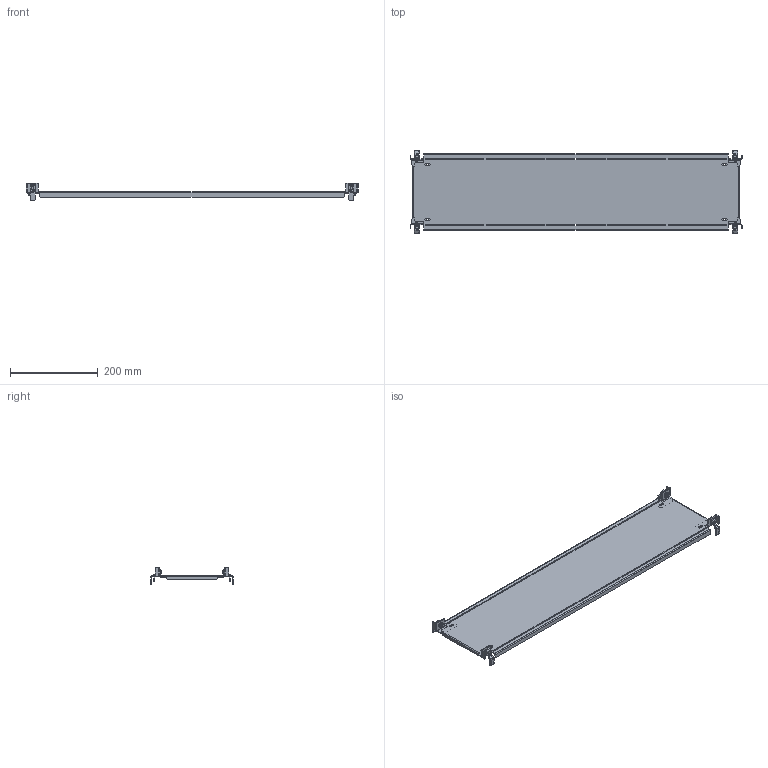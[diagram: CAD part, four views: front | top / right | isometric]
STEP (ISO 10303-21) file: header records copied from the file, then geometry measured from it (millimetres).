
FILE_DESCRIPTION(('CAx-IF Rec.Pracs.---Model Styling and Organization---1.2---2011-12-15','CAx-IF Rec.Pracs.---Geometric and Assembly Validation Properties---4.1---2014-06-16','CAx-IF Rec.Pracs.---PMI Polyline Presentation---2.0---2013-05-24'),'2;1');
FILE_NAME('R5CPB820.stp','2021-05-06T03:26:46+03:00',(''),(''),'STEP Interface 4.4 by CT CoreTechnologie','3D_Evolution4.4 by CT CoreTechnologie','');
FILE_SCHEMA(('AUTOMOTIVE_DESIGN { 1 0 10303 214 1 1 1 1 }'));
Length unit declared in the file: millimetre
Products named in the file (6): R5CPB820; RB.0546.00.00.0_-00; AC00C485; RB.0546.00.00.0_-01; M6x16-DIN 7985 ISR_thread; RB.0726.00.00.0_-10
Assembly tree (13 placements, depth 2):
  R5CPB820
    RB.0546.00.00.0_-00  x2
    AC00C485  x4
    RB.0546.00.00.0_-01  x2
    M6x16-DIN 7985 ISR_thread  x4
    RB.0726.00.00.0_-10
Bounding box: 755 x 187 x 39.05 mm (x, y, z)
Surface area: 303670.7 mm2 (no closed solid volume)
Topology: 0 solids, 21 shells, 576 faces, 1458 edges, 912 vertices
Faces by surface type: plane 324, cylinder 196, bspline 56
Entity records: 8639 total; most frequent: CARTESIAN_POINT 1873, ORIENTED_EDGE 1334, DIRECTION 1294, EDGE_CURVE 667, VECTOR 520, LINE 520, VERTEX_POINT 430, AXIS2_PLACEMENT_3D 387
